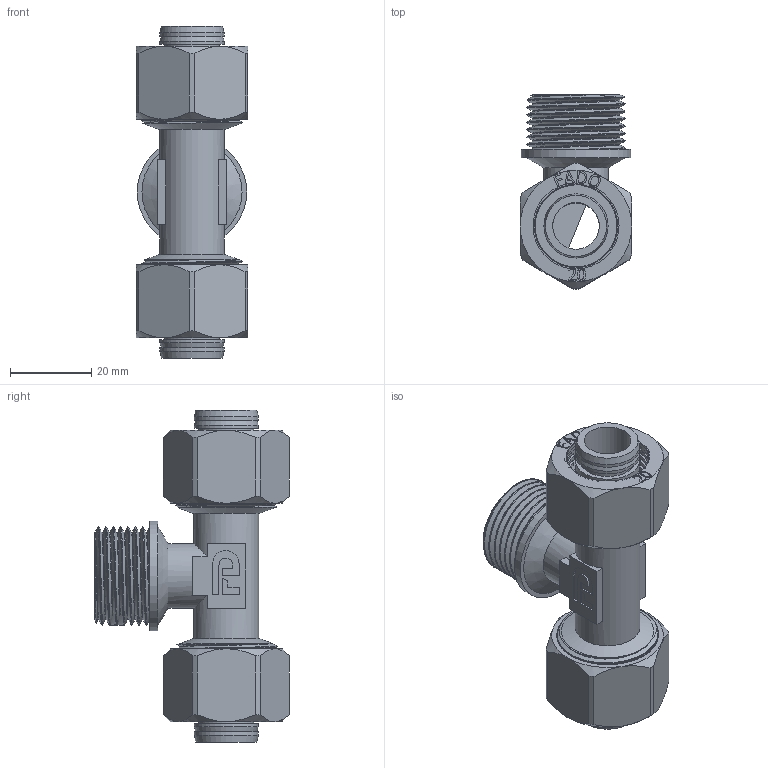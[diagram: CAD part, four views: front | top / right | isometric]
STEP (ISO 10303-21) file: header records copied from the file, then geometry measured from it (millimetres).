
FILE_DESCRIPTION(/* description */ (''),/* implementation_level */ '2;1');
FILE_NAME(/* name */ 'C:\Users\Doom\Desktop\Фадотех\Обжим\RFT22 20x34''''Mx20 30.03.2020\RFT22 20x34''''Mx20 30.03.2020.stp',/* time_stamp */ '2022-06-01T13:57:42+03:00',/* author */ ('Doom'),/* organization */ (''),/* preprocessor_version */ 'ST-DEVELOPER v18',/* originating_system */ 'Autodesk Inventor 2020',/* authorisation */ '');
FILE_SCHEMA (('AUTOMOTIVE_DESIGN { 1 0 10303 214 3 1 1 }'));
Length unit declared in the file: millimetre
Products named in the file (5): RFT22 20x34''Mx20 30.03.2020; RFT22 20x34''Mx20 30.03.2020_1; FADO MC Nut-20 15.02.2020; FADO MC Socket-20 15.02.2020; Olive 20 15.02.2020
Assembly tree (6 placements, depth 2):
  RFT22 20x34''Mx20 30.03.2020
    FADO MC Nut-20 15.02.2020  x2
    FADO MC Socket-20 15.02.2020  x2
    Olive 20 15.02.2020  x2
  RFT22 20x34''Mx20 30.03.2020_1
Bounding box: 27.5 x 47.9 x 81.8 mm (x, y, z)
Volume: 27079 mm3; surface area: 39466 mm2
Topology: 12 solids, 12 shells, 1055 faces, 2889 edges, 1941 vertices
Faces by surface type: bspline 518, plane 309, cylinder 165, cone 57, torus 6
Full cylindrical faces by diameter (mm): 11.5 x2, 12 x2, 13.531 x4, 14.5 x2, 15.802 x10, 16 x2, 17.391 x2, 17.5 x2, 18 x2, 20 x1, 20.5 x2, 21.48 x2, 22.776 x18, 23 x2, 23.517 x2, 24.1 x2, 24.17 x8, 25 x19, 27 x1
Entity records: 41058 total; most frequent: CARTESIAN_POINT 27381, ORIENTED_EDGE 3290, DIRECTION 1971, EDGE_CURVE 1645, VERTEX_POINT 1107, EDGE_LOOP 664, AXIS2_PLACEMENT_3D 658, LINE 655
